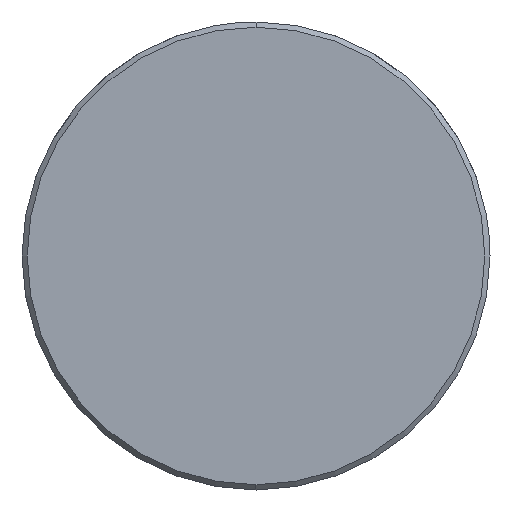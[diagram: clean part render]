
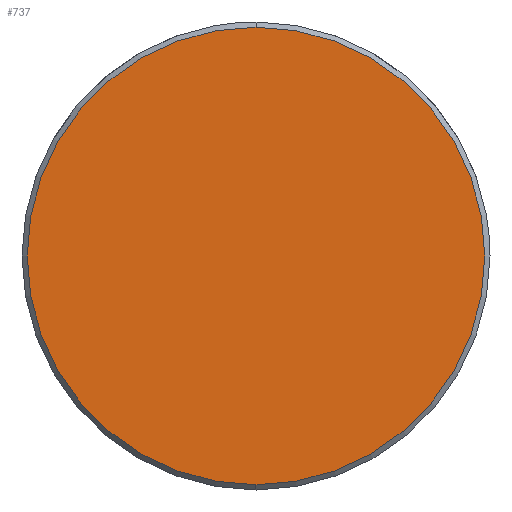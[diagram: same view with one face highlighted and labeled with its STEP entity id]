
A CAD part, left-side view. The second image highlights one B-rep face of the part: STEP entity #737.
In plain terms, the highlighted planar face has unit normal (-1, 0, 0).
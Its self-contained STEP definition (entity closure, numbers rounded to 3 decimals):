
#669=CARTESIAN_POINT('Vertex',(0.,0.,-13.2)) ;
#672=CARTESIAN_POINT('Axis2P3D Location',(0.,0.,0.)) ;
#676=CARTESIAN_POINT('Vertex',(0.,13.2,0.)) ;
#679=CARTESIAN_POINT('Axis2P3D Location',(0.,0.,0.)) ;
#683=CARTESIAN_POINT('Vertex',(0.,0.,13.2)) ;
#705=CARTESIAN_POINT('Axis2P3D Location',(0.,0.,0.)) ;
#709=CARTESIAN_POINT('Vertex',(0.,-13.2,0.)) ;
#712=CARTESIAN_POINT('Axis2P3D Location',(0.,0.,0.)) ;
#726=CARTESIAN_POINT('Axis2P3D Location',(0.,0.,0.)) ;
#673=DIRECTION('Axis2P3D Direction',(1.,0.,-0.)) ;
#680=DIRECTION('Axis2P3D Direction',(1.,0.,-0.)) ;
#706=DIRECTION('Axis2P3D Direction',(1.,0.,-0.)) ;
#713=DIRECTION('Axis2P3D Direction',(1.,0.,-0.)) ;
#727=DIRECTION('Axis2P3D Direction',(1.,0.,-0.)) ;
#728=DIRECTION('Axis2P3D XDirection',(-0.,0.,-1.)) ;
#674=AXIS2_PLACEMENT_3D('Circle Axis2P3D',#672,#673,$) ;
#681=AXIS2_PLACEMENT_3D('Circle Axis2P3D',#679,#680,$) ;
#707=AXIS2_PLACEMENT_3D('Circle Axis2P3D',#705,#706,$) ;
#714=AXIS2_PLACEMENT_3D('Circle Axis2P3D',#712,#713,$) ;
#729=AXIS2_PLACEMENT_3D('Plane Axis2P3D',#726,#727,#728) ;
#732=ORIENTED_EDGE('',*,*,#678,.F.) ;
#733=ORIENTED_EDGE('',*,*,#716,.F.) ;
#734=ORIENTED_EDGE('',*,*,#711,.F.) ;
#735=ORIENTED_EDGE('',*,*,#685,.F.) ;
#737=ADVANCED_FACE('549-24X120',(#736),#730,.F.) ;
#675=CIRCLE('generated circle',#674,13.2) ;
#682=CIRCLE('generated circle',#681,13.2) ;
#708=CIRCLE('generated circle',#707,13.2) ;
#715=CIRCLE('generated circle',#714,13.2) ;
#678=EDGE_CURVE('',#670,#677,#675,.T.) ;
#685=EDGE_CURVE('',#677,#684,#682,.T.) ;
#711=EDGE_CURVE('',#684,#710,#708,.T.) ;
#716=EDGE_CURVE('',#710,#670,#715,.T.) ;
#731=EDGE_LOOP('',(#732,#733,#734,#735)) ;
#736=FACE_OUTER_BOUND('',#731,.T.) ;
#730=PLANE('Plane',#729) ;
#670=VERTEX_POINT('',#669) ;
#677=VERTEX_POINT('',#676) ;
#684=VERTEX_POINT('',#683) ;
#710=VERTEX_POINT('',#709) ;
